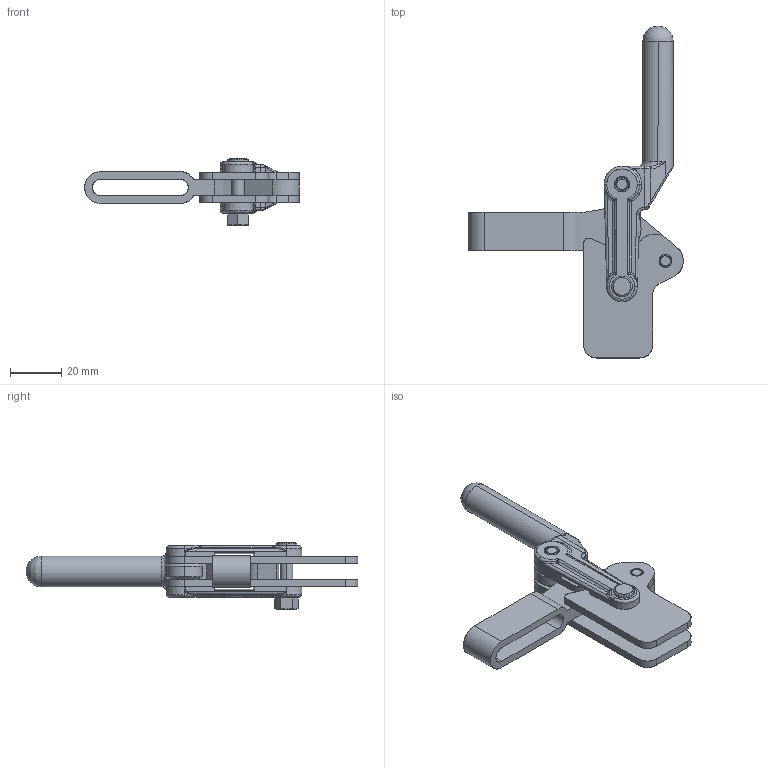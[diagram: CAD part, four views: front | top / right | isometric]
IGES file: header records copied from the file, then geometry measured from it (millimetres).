
Start section: SolidWorks IGES file using analytic representation for surfaces
Global section: file name: D:\GH Files\GH-SW-FILES\GH7\70320,70300B,70300T\70320\70320.IGS; native system: SolidWorks 2006 by SolidWorks Corporation; preprocessor: SolidWorks 2006 by SolidWorks Corporation; author: Administrator; date: 060705.131850; units: millimetre
Bounding box: 84.01 x 129.99 x 26.5 mm (x, y, z)
Surface area: 22194.8 mm2 (no closed solid volume)
Topology: 0 solids, 0 shells, 869 faces, 6519 edges, 6508 vertices
Faces by surface type: bspline 574, revolution 295
